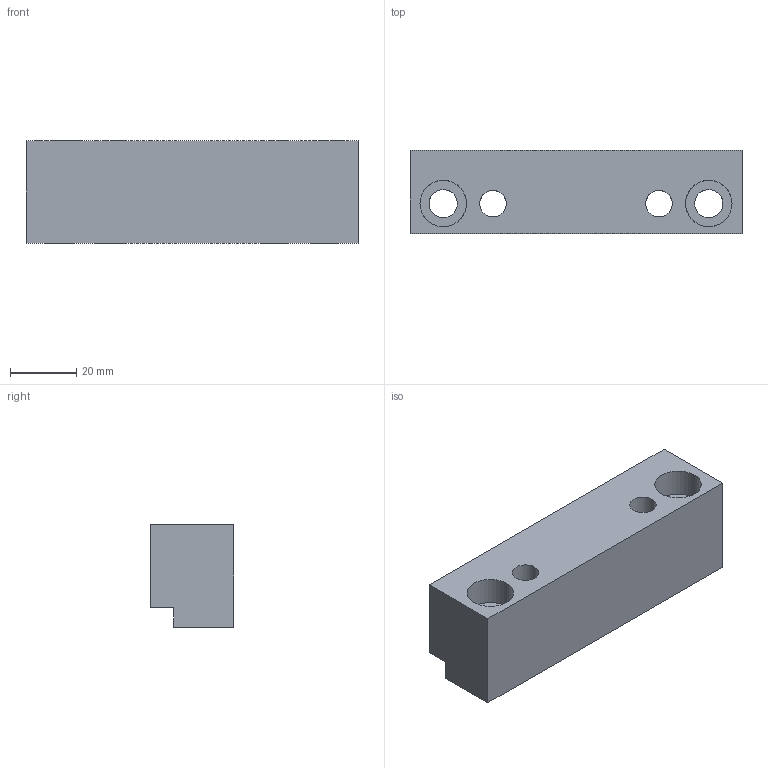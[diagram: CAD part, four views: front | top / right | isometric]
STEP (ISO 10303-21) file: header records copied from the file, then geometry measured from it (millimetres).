
FILE_DESCRIPTION(('CATIA V5 STEP Exchange'),'2;1');
FILE_NAME('C:\Users\Utente\Desktop\3D files G406\G40631100.stp','2020-04-22T11:25:53+00:00',('none'),('none'),'CATIA Version 5 Release 20 GA (IN-10)','CATIA V5 STEP AP203','none');
FILE_SCHEMA(('CONFIG_CONTROL_DESIGN'));
Length unit declared in the file: millimetre
Products named in the file (1): G40631100
Bounding box: 100 x 25 x 31 mm (x, y, z)
Surface area: 19033.9 mm2 (no closed solid volume)
Topology: 0 solids, 372 shells, 372 faces, 1570 edges, 1392 vertices
Faces by surface type: revolution 196, cylinder 128, plane 48
Entity records: 17600 total; most frequent: CARTESIAN_POINT 5987, DIRECTION 1834, ORIENTED_EDGE 1392, EDGE_CURVE 1392, VERTEX_POINT 1392, AXIS2_PLACEMENT_3D 779, VECTOR 684, LINE 684
